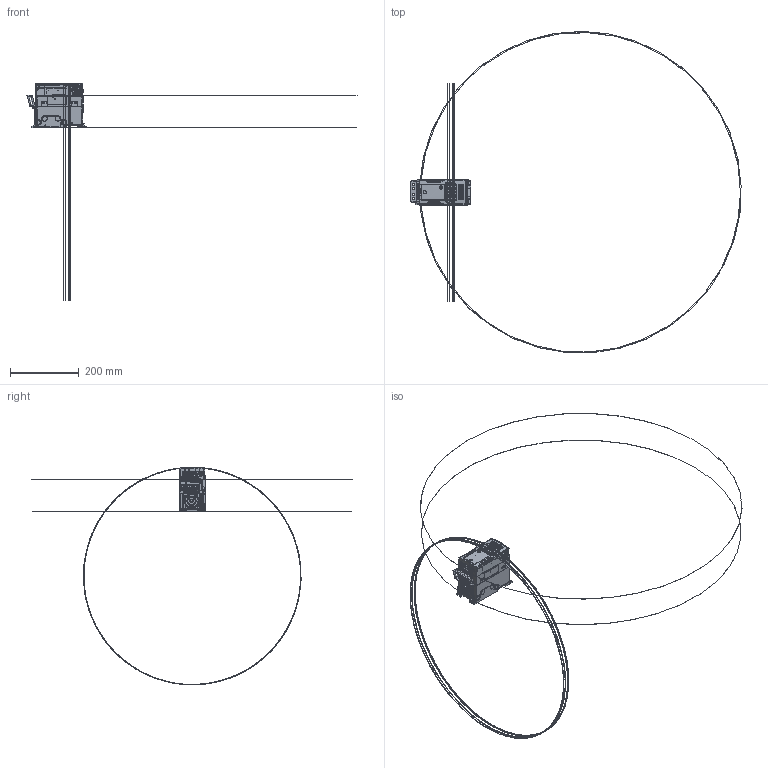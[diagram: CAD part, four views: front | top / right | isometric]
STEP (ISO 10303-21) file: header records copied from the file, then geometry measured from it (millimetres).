
FILE_DESCRIPTION((''),'2;1');
FILE_NAME('UNIM-01-M100-SIMPLE','2013-08-09T',('owenrh01'),(''),'PRO/ENGINEER BY PARAMETRIC TECHNOLOGY CORPORATION, 2011490','PRO/ENGINEER BY PARAMETRIC TECHNOLOGY CORPORATION, 2011490','');
FILE_SCHEMA(('CONFIG_CONTROL_DESIGN'));
Products named in the file (1): UNIM-01-M100-SIMPLE
Bounding box: 963.02 x 937.08 x 634.74 mm (x, y, z)
Surface area: 282773 mm2 (no closed solid volume)
Topology: 0 solids, 0 shells, 2169 faces, 16237 edges, 16144 vertices
Faces by surface type: bspline 2069, torus 98, sphere 2
Entity records: 323180 total; most frequent: CARTESIAN_POINT 181626, DIRECTION 20298, TRIMMED_CURVE 18403, VECTOR 16708, LINE 16708, DEFINITIONAL_REPRESENTATION 16049, PCURVE 16049, COMPOSITE_CURVE_SEGMENT 16049
